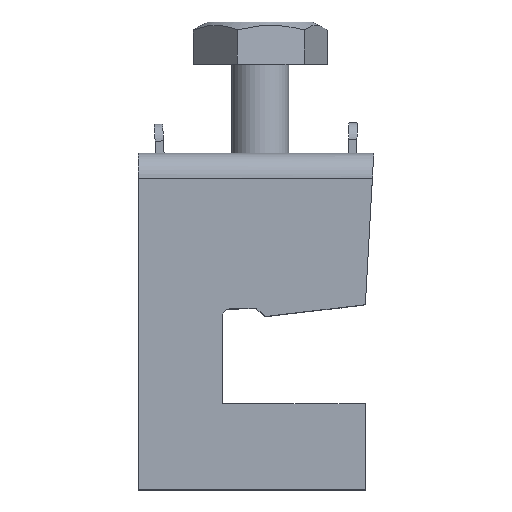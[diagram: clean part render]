
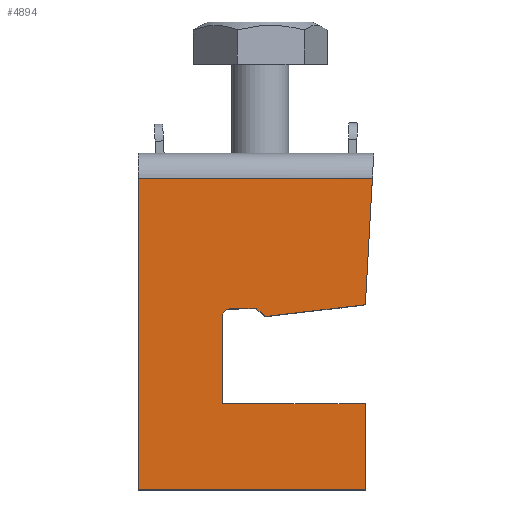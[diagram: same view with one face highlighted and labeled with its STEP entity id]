
A CAD part, top view. The second image highlights one B-rep face of the part: STEP entity #4894.
In plain terms, the highlighted planar face has unit normal (0, 0, 1).
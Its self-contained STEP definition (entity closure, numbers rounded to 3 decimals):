
#114 = CARTESIAN_POINT ( 'NONE',  ( 22.51, -30.006, 8. ) ) ;
#442 = DIRECTION ( 'NONE',  ( 1., 0., 0. ) ) ;
#457 = AXIS2_PLACEMENT_3D ( 'NONE', #5739, #5877, #2567 ) ;
#631 = VERTEX_POINT ( 'NONE', #5129 ) ;
#797 = VERTEX_POINT ( 'NONE', #7008 ) ;
#831 = VECTOR ( 'NONE', #6994, 1000. ) ;
#1052 = ORIENTED_EDGE ( 'NONE', *, *, #4216, .F. ) ;
#1076 = ORIENTED_EDGE ( 'NONE', *, *, #8854, .F. ) ;
#1195 = DIRECTION ( 'NONE',  ( 0., 0., -1. ) ) ;
#1253 = LINE ( 'NONE', #6325, #10291 ) ;
#1264 = ORIENTED_EDGE ( 'NONE', *, *, #7541, .F. ) ;
#1295 = EDGE_LOOP ( 'NONE', ( #1264, #6228, #4659, #7665, #1645, #7729, #2650, #1052, #4492, #8556, #1076, #4168, #3119, #4978, #2070, #6973 ) ) ;
#1348 = DIRECTION ( 'NONE',  ( 0., 0., -1. ) ) ;
#1397 = VECTOR ( 'NONE', #1925, 1000. ) ;
#1434 = VECTOR ( 'NONE', #10235, 1000. ) ;
#1529 = AXIS2_PLACEMENT_3D ( 'NONE', #114, #9250, #6782 ) ;
#1645 = ORIENTED_EDGE ( 'NONE', *, *, #7792, .T. ) ;
#1666 = VERTEX_POINT ( 'NONE', #4825 ) ;
#1717 = DIRECTION ( 'NONE',  ( 1., 0., 0. ) ) ;
#1825 = CIRCLE ( 'NONE', #8159, 1. ) ;
#1855 = CARTESIAN_POINT ( 'NONE',  ( 10., -35.4, 8. ) ) ;
#1886 = LINE ( 'NONE', #9440, #6289 ) ;
#1891 = EDGE_CURVE ( 'NONE', #6452, #8678, #4083, .T. ) ;
#1925 = DIRECTION ( 'NONE',  ( -1., 0., 0. ) ) ;
#1954 = AXIS2_PLACEMENT_3D ( 'NONE', #10110, #5181, #8507 ) ;
#2070 = ORIENTED_EDGE ( 'NONE', *, *, #1891, .F. ) ;
#2213 = DIRECTION ( 'NONE',  ( 0., 0., -1. ) ) ;
#2312 = CIRCLE ( 'NONE', #2442, 0.3 ) ;
#2320 = VERTEX_POINT ( 'NONE', #10558 ) ;
#2374 = LINE ( 'NONE', #5699, #7513 ) ;
#2442 = AXIS2_PLACEMENT_3D ( 'NONE', #10099, #1195, #6909 ) ;
#2482 = CARTESIAN_POINT ( 'NONE',  ( 14.084, -18.52, 8. ) ) ;
#2530 = DIRECTION ( 'NONE',  ( 0., -1., 0. ) ) ;
#2557 = CARTESIAN_POINT ( 'NONE',  ( 1.5, -29.748, 8. ) ) ;
#2567 = DIRECTION ( 'NONE',  ( -1., 0., 0. ) ) ;
#2650 = ORIENTED_EDGE ( 'NONE', *, *, #7058, .F. ) ;
#2670 = VERTEX_POINT ( 'NONE', #2482 ) ;
#2862 = DIRECTION ( 'NONE',  ( 1., 0., 0. ) ) ;
#2973 = VECTOR ( 'NONE', #3432, 1000. ) ;
#2998 = CARTESIAN_POINT ( 'NONE',  ( 14., -18.45, 8. ) ) ;
#3119 = ORIENTED_EDGE ( 'NONE', *, *, #7027, .F. ) ;
#3432 = DIRECTION ( 'NONE',  ( -1., 0., 0. ) ) ;
#3541 = VERTEX_POINT ( 'NONE', #3715 ) ;
#3578 = EDGE_CURVE ( 'NONE', #8455, #7266, #5717, .T. ) ;
#3579 = EDGE_CURVE ( 'NONE', #7245, #631, #1825, .T. ) ;
#3715 = CARTESIAN_POINT ( 'NONE',  ( 0., -3., 8. ) ) ;
#3744 = LINE ( 'NONE', #1855, #8384 ) ;
#3758 = LINE ( 'NONE', #4544, #2973 ) ;
#3880 = AXIS2_PLACEMENT_3D ( 'NONE', #9634, #2213, #8849 ) ;
#3903 = LINE ( 'NONE', #5156, #1434 ) ;
#3969 = CARTESIAN_POINT ( 'NONE',  ( 27.833, -3., 8. ) ) ;
#4083 = LINE ( 'NONE', #2557, #8956 ) ;
#4168 = ORIENTED_EDGE ( 'NONE', *, *, #8584, .F. ) ;
#4216 = EDGE_CURVE ( 'NONE', #7266, #7318, #3903, .T. ) ;
#4492 = ORIENTED_EDGE ( 'NONE', *, *, #3578, .F. ) ;
#4544 = CARTESIAN_POINT ( 'NONE',  ( 1.5, -18.45, 8. ) ) ;
#4579 = PLANE ( 'NONE',  #457 ) ;
#4659 = ORIENTED_EDGE ( 'NONE', *, *, #3579, .T. ) ;
#4825 = CARTESIAN_POINT ( 'NONE',  ( 15.033, -19.317, 8. ) ) ;
#4894 = ADVANCED_FACE ( 'NONE', ( #9677 ), #4579, .F. ) ;
#4978 = ORIENTED_EDGE ( 'NONE', *, *, #9014, .F. ) ;
#5127 = EDGE_CURVE ( 'NONE', #8808, #6452, #5283, .T. ) ;
#5129 = CARTESIAN_POINT ( 'NONE',  ( 11., -18.45, 8. ) ) ;
#5156 = CARTESIAN_POINT ( 'NONE',  ( 26.75, -18.03, 8. ) ) ;
#5181 = DIRECTION ( 'NONE',  ( 0., 0., -1. ) ) ;
#5207 = EDGE_CURVE ( 'NONE', #8313, #631, #3758, .T. ) ;
#5274 = CARTESIAN_POINT ( 'NONE',  ( 27.014, -17.748, 8. ) ) ;
#5283 = CIRCLE ( 'NONE', #1529, 0.3 ) ;
#5631 = CARTESIAN_POINT ( 'NONE',  ( 22.664, -29.748, 8. ) ) ;
#5699 = CARTESIAN_POINT ( 'NONE',  ( 27., -18., 8. ) ) ;
#5717 = CIRCLE ( 'NONE', #3880, 0.3 ) ;
#5720 = VERTEX_POINT ( 'NONE', #10632 ) ;
#5739 = CARTESIAN_POINT ( 'NONE',  ( 1.5, -35.4, 8. ) ) ;
#5877 = DIRECTION ( 'NONE',  ( 0., 0., -1. ) ) ;
#5911 = CIRCLE ( 'NONE', #1954, 0.3 ) ;
#6011 = LINE ( 'NONE', #2998, #831 ) ;
#6228 = ORIENTED_EDGE ( 'NONE', *, *, #6934, .F. ) ;
#6289 = VECTOR ( 'NONE', #2862, 1000. ) ;
#6325 = CARTESIAN_POINT ( 'NONE',  ( 1.5, -29.748, 8. ) ) ;
#6336 = CARTESIAN_POINT ( 'NONE',  ( 0., 0., 8. ) ) ;
#6379 = CARTESIAN_POINT ( 'NONE',  ( 11., -19.45, 8. ) ) ;
#6406 = CARTESIAN_POINT ( 'NONE',  ( 10., -19.45, 8. ) ) ;
#6423 = VERTEX_POINT ( 'NONE', #3969 ) ;
#6452 = VERTEX_POINT ( 'NONE', #5631 ) ;
#6641 = CARTESIAN_POINT ( 'NONE',  ( 27., -35.4, 8. ) ) ;
#6782 = DIRECTION ( 'NONE',  ( 1., 0., 0. ) ) ;
#6837 = CARTESIAN_POINT ( 'NONE',  ( 1.5, -40., 8. ) ) ;
#6909 = DIRECTION ( 'NONE',  ( 1., 0., 0. ) ) ;
#6934 = EDGE_CURVE ( 'NONE', #7245, #2320, #3744, .T. ) ;
#6973 = ORIENTED_EDGE ( 'NONE', *, *, #5127, .F. ) ;
#6994 = DIRECTION ( 'NONE',  ( -0.766, 0.643, 0. ) ) ;
#7008 = CARTESIAN_POINT ( 'NONE',  ( 27., -40., 8. ) ) ;
#7027 = EDGE_CURVE ( 'NONE', #797, #5720, #7986, .T. ) ;
#7058 = EDGE_CURVE ( 'NONE', #7318, #1666, #2312, .T. ) ;
#7236 = DIRECTION ( 'NONE',  ( 1., 0., 0. ) ) ;
#7245 = VERTEX_POINT ( 'NONE', #6406 ) ;
#7266 = VERTEX_POINT ( 'NONE', #10571 ) ;
#7318 = VERTEX_POINT ( 'NONE', #10647 ) ;
#7513 = VECTOR ( 'NONE', #9831, 1000. ) ;
#7541 = EDGE_CURVE ( 'NONE', #2320, #8808, #1253, .T. ) ;
#7665 = ORIENTED_EDGE ( 'NONE', *, *, #5207, .F. ) ;
#7729 = ORIENTED_EDGE ( 'NONE', *, *, #10032, .F. ) ;
#7792 = EDGE_CURVE ( 'NONE', #8313, #2670, #5911, .T. ) ;
#7986 = LINE ( 'NONE', #6837, #1397 ) ;
#8131 = DIRECTION ( 'NONE',  ( 0., 1., 0. ) ) ;
#8159 = AXIS2_PLACEMENT_3D ( 'NONE', #6379, #1348, #7236 ) ;
#8313 = VERTEX_POINT ( 'NONE', #9068 ) ;
#8384 = VECTOR ( 'NONE', #9995, 1000. ) ;
#8455 = VERTEX_POINT ( 'NONE', #5274 ) ;
#8507 = DIRECTION ( 'NONE',  ( -1., 0., 0. ) ) ;
#8556 = ORIENTED_EDGE ( 'NONE', *, *, #10286, .F. ) ;
#8584 = EDGE_CURVE ( 'NONE', #5720, #3541, #9507, .T. ) ;
#8678 = VERTEX_POINT ( 'NONE', #9021 ) ;
#8808 = VERTEX_POINT ( 'NONE', #9333 ) ;
#8849 = DIRECTION ( 'NONE',  ( 1., 0., 0. ) ) ;
#8854 = EDGE_CURVE ( 'NONE', #3541, #6423, #1886, .T. ) ;
#8956 = VECTOR ( 'NONE', #1717, 1000. ) ;
#9014 = EDGE_CURVE ( 'NONE', #8678, #797, #10390, .T. ) ;
#9021 = CARTESIAN_POINT ( 'NONE',  ( 27., -29.748, 8. ) ) ;
#9068 = CARTESIAN_POINT ( 'NONE',  ( 13.891, -18.45, 8. ) ) ;
#9250 = DIRECTION ( 'NONE',  ( 0., 0., -1. ) ) ;
#9333 = CARTESIAN_POINT ( 'NONE',  ( 22.357, -29.748, 8. ) ) ;
#9440 = CARTESIAN_POINT ( 'NONE',  ( 1.5, -3., 8. ) ) ;
#9507 = LINE ( 'NONE', #6336, #9886 ) ;
#9634 = CARTESIAN_POINT ( 'NONE',  ( 26.714, -17.732, 8. ) ) ;
#9677 = FACE_OUTER_BOUND ( 'NONE', #1295, .T. ) ;
#9831 = DIRECTION ( 'NONE',  ( -0.055, -0.998, 0. ) ) ;
#9886 = VECTOR ( 'NONE', #8131, 1000. ) ;
#9995 = DIRECTION ( 'NONE',  ( 0., -1., 0. ) ) ;
#10032 = EDGE_CURVE ( 'NONE', #1666, #2670, #6011, .T. ) ;
#10099 = CARTESIAN_POINT ( 'NONE',  ( 15.226, -19.087, 8. ) ) ;
#10110 = CARTESIAN_POINT ( 'NONE',  ( 13.891, -18.75, 8. ) ) ;
#10235 = DIRECTION ( 'NONE',  ( -0.993, -0.117, 0. ) ) ;
#10271 = VECTOR ( 'NONE', #2530, 1000. ) ;
#10286 = EDGE_CURVE ( 'NONE', #6423, #8455, #2374, .T. ) ;
#10291 = VECTOR ( 'NONE', #442, 1000. ) ;
#10390 = LINE ( 'NONE', #6641, #10271 ) ;
#10558 = CARTESIAN_POINT ( 'NONE',  ( 10., -29.748, 8. ) ) ;
#10571 = CARTESIAN_POINT ( 'NONE',  ( 26.75, -18.03, 8. ) ) ;
#10632 = CARTESIAN_POINT ( 'NONE',  ( 0., -40., 8. ) ) ;
#10647 = CARTESIAN_POINT ( 'NONE',  ( 15.261, -19.385, 8. ) ) ;
